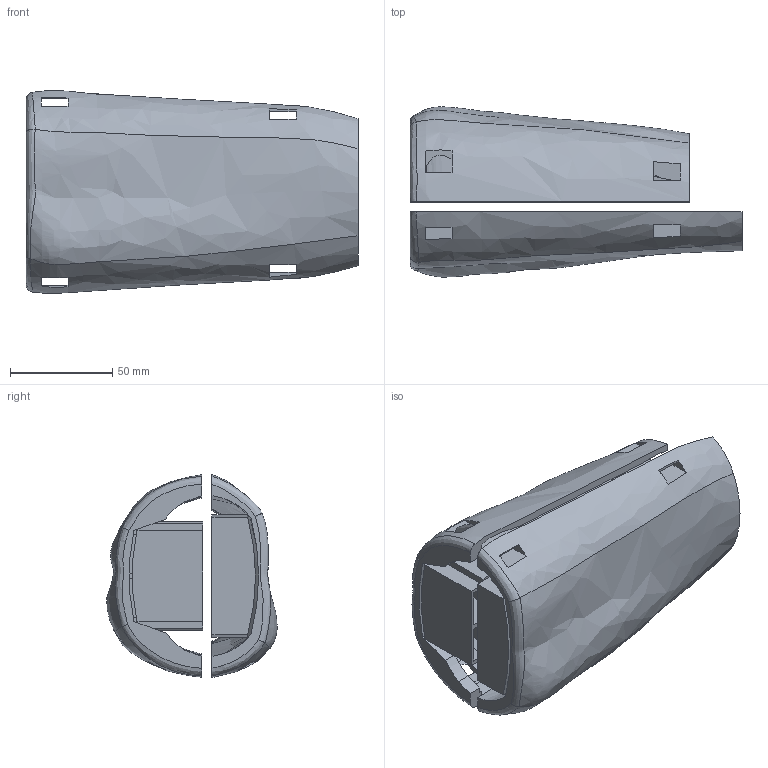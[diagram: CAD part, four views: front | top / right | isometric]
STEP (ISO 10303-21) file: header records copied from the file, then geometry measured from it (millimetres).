
FILE_DESCRIPTION(/* description */ (''),/* implementation_level */ '2;1');
FILE_NAME(/* name */ 'C:/Users/Ryan/Documents/AIO Robotics/CAD Files/ForearmShell v195.step',/* time_stamp */ '2017-02-04T20:43:27-08:00',/* author */ (''),/* organization */ (''),/* preprocessor_version */ 'ST-DEVELOPER v16.5',/* originating_system */ 'Autodesk Translation Framework v5.2.0.2920',/* authorisation */ '');
FILE_SCHEMA (('AUTOMOTIVE_DESIGN { 1 0 10303 214 3 1 1 }'));
Length unit declared in the file: inch
Products named in the file (1): ForearmShell v195
Bounding box: 162.56 x 83.34 x 99.43 mm (x, y, z)
Volume: 266052.2 mm3; surface area: 172104.6 mm2
Topology: 4 solids, 4 shells, 283 faces, 843 edges, 568 vertices
Faces by surface type: plane 189, bspline 77, cylinder 17
Entity records: 25937 total; most frequent: CARTESIAN_POINT 18949, ORIENTED_EDGE 1686, DIRECTION 1088, EDGE_CURVE 843, VERTEX_POINT 568, LINE 430, VECTOR 430, AXIS2_PLACEMENT_3D 329
